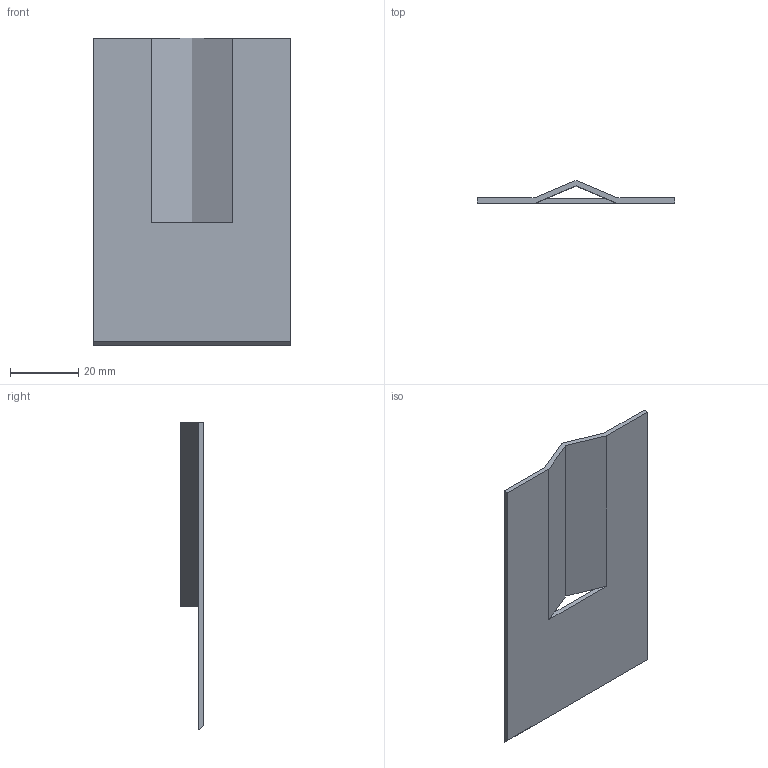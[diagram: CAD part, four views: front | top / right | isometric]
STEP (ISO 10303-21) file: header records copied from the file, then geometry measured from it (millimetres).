
FILE_DESCRIPTION(('Open CASCADE Model'),'2;1');
FILE_NAME('Open CASCADE Shape Model','2026-10-15T20:56:36',('Author'),( 'Open CASCADE'),'Open CASCADE STEP processor 7.9','Open CASCADE 7.9' ,'Unknown');
FILE_SCHEMA(('AUTOMOTIVE_DESIGN { 1 0 10303 214 1 1 1 1 }'));
Length unit declared in the file: millimetre
Products named in the file (1): Open CASCADE STEP translator 7.9 7
Bounding box: 58 x 6.62 x 90 mm (x, y, z)
Volume: 7952.3 mm3; surface area: 11127.8 mm2
Topology: 1 solids, 1 shells, 13 faces, 37 edges, 24 vertices
Faces by surface type: plane 13
Entity records: 910 total; most frequent: CARTESIAN_POINT 149, DIRECTION 139, LINE 111, VECTOR 111, ORIENTED_EDGE 74, PCURVE 74, DEFINITIONAL_REPRESENTATION 74, EDGE_CURVE 37
